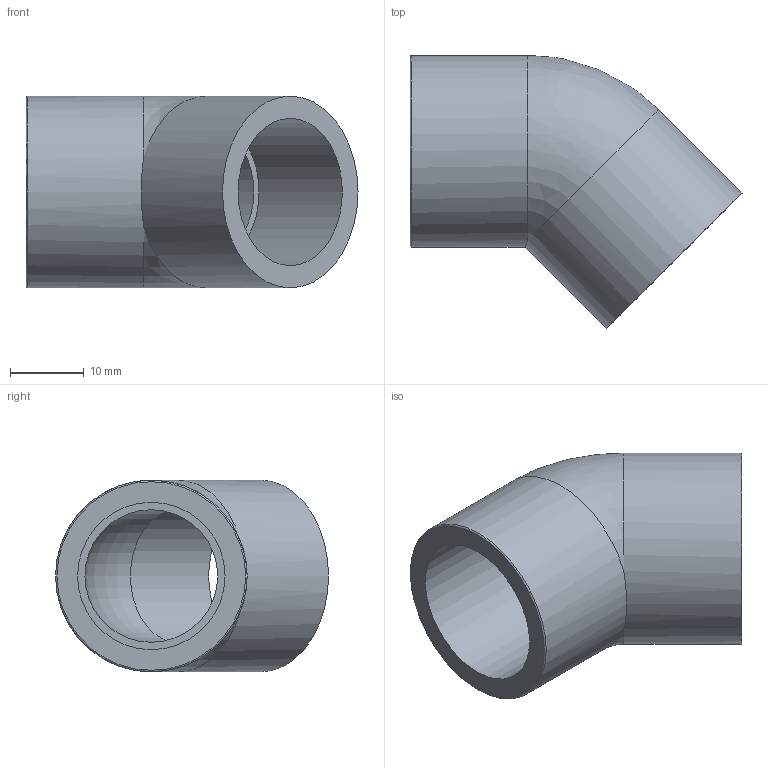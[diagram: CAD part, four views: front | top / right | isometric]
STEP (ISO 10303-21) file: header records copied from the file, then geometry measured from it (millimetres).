
FILE_DESCRIPTION(/* description */ ('PLASSON 45° ELBOW CEMENT PVC 20'),/* implementation_level */ '2;1');
FILE_NAME(/* name */ 'C:\Dropbox\KIMPROJECTS-Inventor\99-16-3568-Processing\PVC Catalog 2017\054500\054500020.ipt.stp',/* time_stamp */ '2017-12-07T16:03:44+02:00',/* author */ ('KIM'),/* organization */ (''),/* preprocessor_version */ 'ST-DEVELOPER v15.6',/* originating_system */ 'Autodesk Inventor 2015',/* authorisation */ '');
FILE_SCHEMA (('AUTOMOTIVE_DESIGN { 1 0 10303 214 3 1 1 }'));
Length unit declared in the file: millimetre
Products named in the file (1): 054500020
Bounding box: 45.04 x 37.04 x 26 mm (x, y, z)
Volume: 9599.4 mm3; surface area: 6482.1 mm2
Topology: 1 solids, 1 shells, 11 faces, 22 edges, 13 vertices
Faces by surface type: cylinder 4, plane 4, torus 2, bspline 1
Full cylindrical faces by diameter (mm): 20 x2, 26 x2
Entity records: 280 total; most frequent: CARTESIAN_POINT 61, DIRECTION 46, ORIENTED_EDGE 24, AXIS2_PLACEMENT_3D 23, EDGE_LOOP 21, EDGE_CURVE 12, FACE_OUTER_BOUND 11, CIRCLE 11
